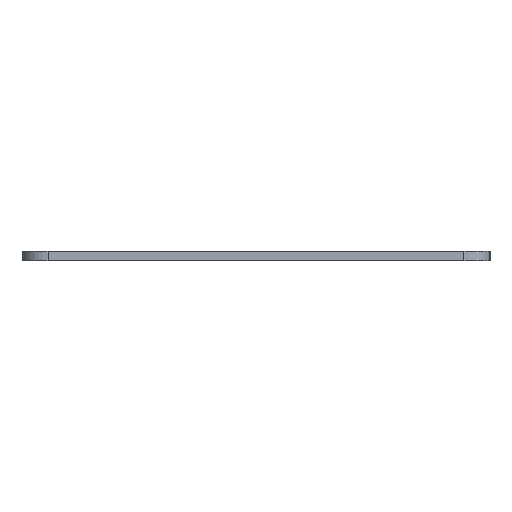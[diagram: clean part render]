
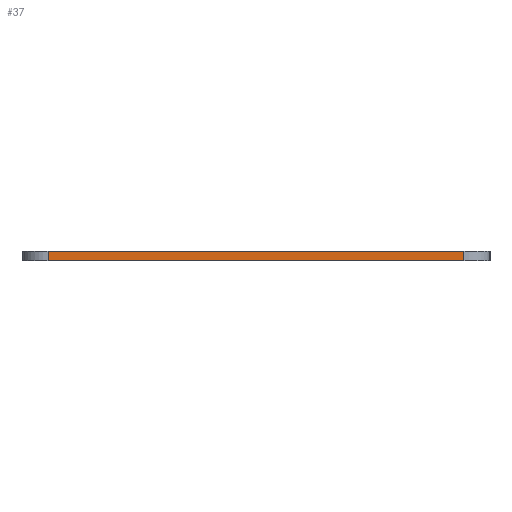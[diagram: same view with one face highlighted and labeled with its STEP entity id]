
A CAD part, left-side view. The second image highlights one B-rep face of the part: STEP entity #37.
In plain terms, the highlighted planar face has unit normal (-1, 0, 0).
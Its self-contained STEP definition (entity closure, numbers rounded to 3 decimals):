
#37 = ADVANCED_FACE ( 'NONE', ( #502 ), #352, .F. ) ;
#41 = DIRECTION ( 'NONE',  ( 0., 0., -1. ) ) ;
#43 = LINE ( 'NONE', #172, #792 ) ;
#48 = VERTEX_POINT ( 'NONE', #521 ) ;
#118 = VECTOR ( 'NONE', #659, 1000. ) ;
#128 = LINE ( 'NONE', #714, #457 ) ;
#129 = CARTESIAN_POINT ( 'NONE',  ( 0., 4., 1.5 ) ) ;
#139 = VERTEX_POINT ( 'NONE', #129 ) ;
#140 = LINE ( 'NONE', #330, #118 ) ;
#172 = CARTESIAN_POINT ( 'NONE',  ( 0., 0., 1.5 ) ) ;
#175 = VERTEX_POINT ( 'NONE', #535 ) ;
#191 = ORIENTED_EDGE ( 'NONE', *, *, #682, .T. ) ;
#228 = DIRECTION ( 'NONE',  ( 1., 0., 0. ) ) ;
#244 = DIRECTION ( 'NONE',  ( 0., -1., 0. ) ) ;
#296 = CARTESIAN_POINT ( 'NONE',  ( 0., 4., 1.5 ) ) ;
#300 = EDGE_CURVE ( 'NONE', #175, #139, #618, .T. ) ;
#330 = CARTESIAN_POINT ( 'NONE',  ( 0., 68., 1.5 ) ) ;
#344 = CARTESIAN_POINT ( 'NONE',  ( 0., 68., 1.5 ) ) ;
#352 = PLANE ( 'NONE',  #564 ) ;
#356 = VECTOR ( 'NONE', #819, 1000. ) ;
#424 = EDGE_CURVE ( 'NONE', #48, #175, #128, .T. ) ;
#457 = VECTOR ( 'NONE', #520, 1000. ) ;
#502 = FACE_OUTER_BOUND ( 'NONE', #757, .T. ) ;
#520 = DIRECTION ( 'NONE',  ( 0., -1., 0. ) ) ;
#521 = CARTESIAN_POINT ( 'NONE',  ( 0., 68., 0. ) ) ;
#535 = CARTESIAN_POINT ( 'NONE',  ( 0., 4., 0. ) ) ;
#564 = AXIS2_PLACEMENT_3D ( 'NONE', #818, #228, #41 ) ;
#618 = LINE ( 'NONE', #296, #356 ) ;
#659 = DIRECTION ( 'NONE',  ( 0., 0., -1. ) ) ;
#682 = EDGE_CURVE ( 'NONE', #683, #48, #140, .T. ) ;
#683 = VERTEX_POINT ( 'NONE', #344 ) ;
#714 = CARTESIAN_POINT ( 'NONE',  ( 0., 0., 0. ) ) ;
#757 = EDGE_LOOP ( 'NONE', ( #771, #809, #800, #191 ) ) ;
#770 = EDGE_CURVE ( 'NONE', #683, #139, #43, .T. ) ;
#771 = ORIENTED_EDGE ( 'NONE', *, *, #424, .T. ) ;
#792 = VECTOR ( 'NONE', #244, 1000. ) ;
#800 = ORIENTED_EDGE ( 'NONE', *, *, #770, .F. ) ;
#809 = ORIENTED_EDGE ( 'NONE', *, *, #300, .T. ) ;
#818 = CARTESIAN_POINT ( 'NONE',  ( 0., 0., 1.5 ) ) ;
#819 = DIRECTION ( 'NONE',  ( 0., 0., 1. ) ) ;
